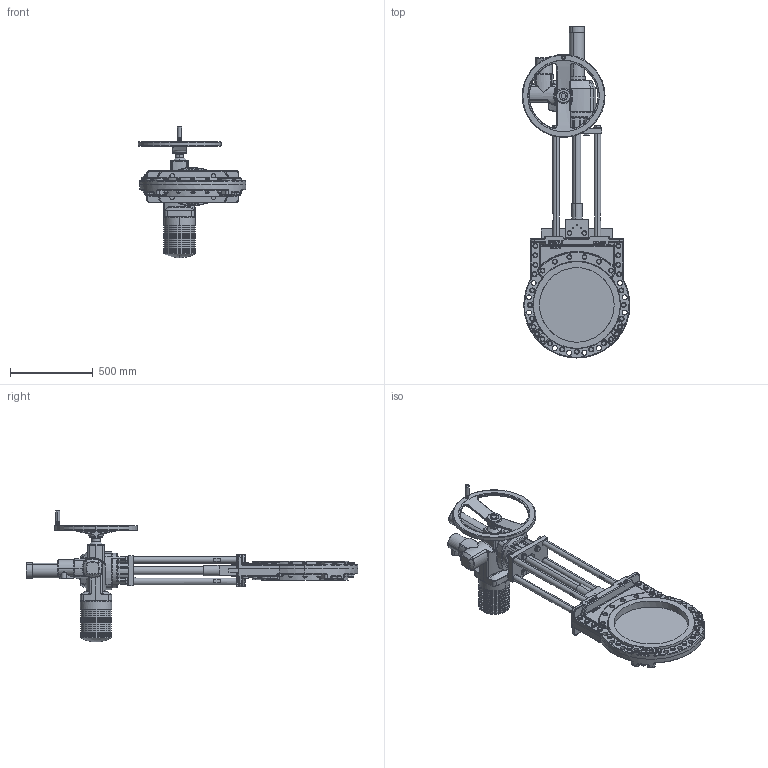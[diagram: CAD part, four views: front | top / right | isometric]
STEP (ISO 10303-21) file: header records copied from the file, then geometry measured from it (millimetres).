
FILE_DESCRIPTION (( 'STEP AP214' ), '1' );
FILE_NAME ('MGE DN 0450 PN16 (SA 16.2).STEP', '2015-09-23T08:49:25', ( 'admin' ), ( 'Hewlett-Packard Company' ), 'SwSTEP 2.0', 'SolidWorks 2013', '' );
FILE_SCHEMA (( 'AUTOMOTIVE_DESIGN' ));
Length unit declared in the file: millimetre
Products named in the file (1): MGE DN 0450 PN16 (SA 16.2)
Bounding box: 650 x 2002 x 795 mm (x, y, z)
Volume: 58569922.2 mm3; surface area: 4172051 mm2
Topology: 108 solids, 119 shells, 3880 faces, 8957 edges, 5376 vertices
Faces by surface type: plane 1370, cylinder 1073, cone 664, bspline 503, torus 245, sphere 25
Entity records: 187773 total; most frequent: CARTESIAN_POINT 59638, ORIENTED_EDGE 17714, DIRECTION 17110, EDGE_CURVE 8857, AXIS2_PLACEMENT_3D 6898, VERTEX_POINT 5376, EDGE_LOOP 4303, UNCERTAINTY_MEASURE_WITH_UNIT 3989
